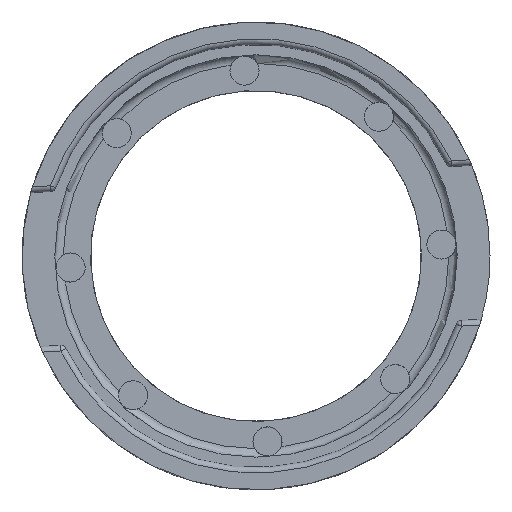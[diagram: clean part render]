
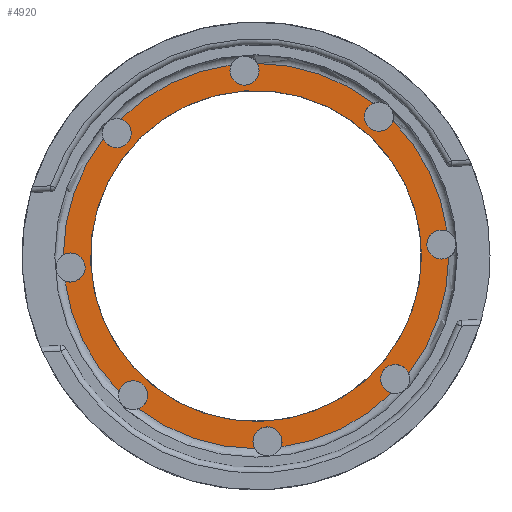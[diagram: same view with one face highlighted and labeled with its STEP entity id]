
A CAD part, top view. The second image highlights one B-rep face of the part: STEP entity #4920.
In plain terms, the highlighted planar face has unit normal (0, 0, 1).
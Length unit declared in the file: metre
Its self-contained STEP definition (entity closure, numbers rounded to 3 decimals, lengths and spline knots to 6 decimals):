
#673=CIRCLE('',#5317,0.03375);
#674=CIRCLE('',#5318,0.00255);
#675=CIRCLE('',#5319,0.03375);
#676=CIRCLE('',#5320,0.00255);
#677=CIRCLE('',#5321,0.03375);
#678=CIRCLE('',#5322,0.00255);
#679=CIRCLE('',#5323,0.03375);
#680=CIRCLE('',#5324,0.00255);
#681=CIRCLE('',#5325,0.03375);
#682=CIRCLE('',#5326,0.00255);
#683=CIRCLE('',#5327,0.03375);
#684=CIRCLE('',#5328,0.00255);
#685=CIRCLE('',#5329,0.03375);
#686=CIRCLE('',#5330,0.00255);
#687=CIRCLE('',#5331,0.03375);
#688=CIRCLE('',#5332,0.00255);
#689=CIRCLE('',#5333,0.029);
#1546=ORIENTED_EDGE('',*,*,#2866,.T.);
#1547=ORIENTED_EDGE('',*,*,#2867,.T.);
#1548=ORIENTED_EDGE('',*,*,#2868,.T.);
#1549=ORIENTED_EDGE('',*,*,#2869,.T.);
#1550=ORIENTED_EDGE('',*,*,#2870,.T.);
#1551=ORIENTED_EDGE('',*,*,#2871,.T.);
#1552=ORIENTED_EDGE('',*,*,#2872,.T.);
#1553=ORIENTED_EDGE('',*,*,#2873,.T.);
#1554=ORIENTED_EDGE('',*,*,#2874,.T.);
#1555=ORIENTED_EDGE('',*,*,#2875,.T.);
#1556=ORIENTED_EDGE('',*,*,#2876,.T.);
#1557=ORIENTED_EDGE('',*,*,#2877,.T.);
#1558=ORIENTED_EDGE('',*,*,#2878,.T.);
#1559=ORIENTED_EDGE('',*,*,#2879,.T.);
#1560=ORIENTED_EDGE('',*,*,#2880,.T.);
#1561=ORIENTED_EDGE('',*,*,#2881,.T.);
#1562=ORIENTED_EDGE('',*,*,#2882,.T.);
#2866=EDGE_CURVE('',#3445,#3446,#673,.F.);
#2867=EDGE_CURVE('',#3446,#3447,#674,.T.);
#2868=EDGE_CURVE('',#3447,#3448,#675,.F.);
#2869=EDGE_CURVE('',#3448,#3449,#676,.T.);
#2870=EDGE_CURVE('',#3449,#3450,#677,.F.);
#2871=EDGE_CURVE('',#3450,#3451,#678,.T.);
#2872=EDGE_CURVE('',#3451,#3452,#679,.F.);
#2873=EDGE_CURVE('',#3452,#3453,#680,.T.);
#2874=EDGE_CURVE('',#3453,#3454,#681,.F.);
#2875=EDGE_CURVE('',#3454,#3455,#682,.T.);
#2876=EDGE_CURVE('',#3455,#3456,#683,.F.);
#2877=EDGE_CURVE('',#3456,#3457,#684,.T.);
#2878=EDGE_CURVE('',#3457,#3458,#685,.F.);
#2879=EDGE_CURVE('',#3458,#3459,#686,.T.);
#2880=EDGE_CURVE('',#3459,#3460,#687,.F.);
#2881=EDGE_CURVE('',#3460,#3445,#688,.T.);
#2882=EDGE_CURVE('',#3461,#3461,#689,.T.);
#3445=VERTEX_POINT('',#12047);
#3446=VERTEX_POINT('',#12048);
#3447=VERTEX_POINT('',#12050);
#3448=VERTEX_POINT('',#12052);
#3449=VERTEX_POINT('',#12054);
#3450=VERTEX_POINT('',#12056);
#3451=VERTEX_POINT('',#12058);
#3452=VERTEX_POINT('',#12060);
#3453=VERTEX_POINT('',#12062);
#3454=VERTEX_POINT('',#12064);
#3455=VERTEX_POINT('',#12066);
#3456=VERTEX_POINT('',#12068);
#3457=VERTEX_POINT('',#12070);
#3458=VERTEX_POINT('',#12072);
#3459=VERTEX_POINT('',#12074);
#3460=VERTEX_POINT('',#12076);
#3461=VERTEX_POINT('',#12079);
#4104=EDGE_LOOP('',(#1546,#1547,#1548,#1549,#1550,#1551,#1552,#1553,#1554,
#1555,#1556,#1557,#1558,#1559,#1560,#1561));
#4105=EDGE_LOOP('',(#1562));
#4445=FACE_BOUND('',#4104,.T.);
#4446=FACE_BOUND('',#4105,.T.);
#4675=PLANE('',#5316);
#4920=ADVANCED_FACE('',(#4445,#4446),#4675,.F.);
#5316=AXIS2_PLACEMENT_3D('',#12045,#5942,#5943);
#5317=AXIS2_PLACEMENT_3D('',#12046,#5944,#5945);
#5318=AXIS2_PLACEMENT_3D('',#12049,#5946,#5947);
#5319=AXIS2_PLACEMENT_3D('',#12051,#5948,#5949);
#5320=AXIS2_PLACEMENT_3D('',#12053,#5950,#5951);
#5321=AXIS2_PLACEMENT_3D('',#12055,#5952,#5953);
#5322=AXIS2_PLACEMENT_3D('',#12057,#5954,#5955);
#5323=AXIS2_PLACEMENT_3D('',#12059,#5956,#5957);
#5324=AXIS2_PLACEMENT_3D('',#12061,#5958,#5959);
#5325=AXIS2_PLACEMENT_3D('',#12063,#5960,#5961);
#5326=AXIS2_PLACEMENT_3D('',#12065,#5962,#5963);
#5327=AXIS2_PLACEMENT_3D('',#12067,#5964,#5965);
#5328=AXIS2_PLACEMENT_3D('',#12069,#5966,#5967);
#5329=AXIS2_PLACEMENT_3D('',#12071,#5968,#5969);
#5330=AXIS2_PLACEMENT_3D('',#12073,#5970,#5971);
#5331=AXIS2_PLACEMENT_3D('',#12075,#5972,#5973);
#5332=AXIS2_PLACEMENT_3D('',#12077,#5974,#5975);
#5333=AXIS2_PLACEMENT_3D('',#12078,#5976,#5977);
#5942=DIRECTION('',(0.,0.,-1.));
#5943=DIRECTION('',(0.819,0.574,0.));
#5944=DIRECTION('',(0.,0.,-1.));
#5945=DIRECTION('',(1.,0.,0.));
#5946=DIRECTION('',(0.,0.,-1.));
#5947=DIRECTION('',(1.,0.,0.));
#5948=DIRECTION('',(0.,0.,-1.));
#5949=DIRECTION('',(1.,0.,0.));
#5950=DIRECTION('',(0.,0.,-1.));
#5951=DIRECTION('',(1.,0.,0.));
#5952=DIRECTION('',(0.,0.,-1.));
#5953=DIRECTION('',(1.,0.,0.));
#5954=DIRECTION('',(0.,0.,-1.));
#5955=DIRECTION('',(1.,0.,0.));
#5956=DIRECTION('',(0.,0.,-1.));
#5957=DIRECTION('',(1.,0.,0.));
#5958=DIRECTION('',(0.,0.,-1.));
#5959=DIRECTION('',(1.,0.,0.));
#5960=DIRECTION('',(0.,0.,-1.));
#5961=DIRECTION('',(1.,0.,0.));
#5962=DIRECTION('',(0.,0.,-1.));
#5963=DIRECTION('',(1.,0.,0.));
#5964=DIRECTION('',(0.,0.,-1.));
#5965=DIRECTION('',(1.,0.,0.));
#5966=DIRECTION('',(0.,0.,-1.));
#5967=DIRECTION('',(1.,0.,0.));
#5968=DIRECTION('',(0.,0.,-1.));
#5969=DIRECTION('',(1.,0.,0.));
#5970=DIRECTION('',(0.,0.,-1.));
#5971=DIRECTION('',(1.,0.,0.));
#5972=DIRECTION('',(0.,0.,-1.));
#5973=DIRECTION('',(1.,0.,0.));
#5974=DIRECTION('',(0.,0.,-1.));
#5975=DIRECTION('',(1.,0.,0.));
#5976=DIRECTION('',(0.,0.,-1.));
#5977=DIRECTION('',(1.,0.,0.));
#12045=CARTESIAN_POINT('',(0.,0.,0.0758));
#12046=CARTESIAN_POINT('',(0.,0.,0.0758));
#12047=CARTESIAN_POINT('',(-0.026754,0.020575,0.0758));
#12048=CARTESIAN_POINT('',(-0.033749,0.000202,0.0758));
#12049=CARTESIAN_POINT('',(-0.032488,-0.002014,0.0758));
#12050=CARTESIAN_POINT('',(-0.033466,-0.004369,0.0758));
#12051=CARTESIAN_POINT('',(0.,0.,0.0758));
#12052=CARTESIAN_POINT('',(-0.024007,-0.023722,0.0758));
#12053=CARTESIAN_POINT('',(-0.021548,-0.024397,0.0758));
#12054=CARTESIAN_POINT('',(-0.020575,-0.026754,0.0758));
#12055=CARTESIAN_POINT('',(0.,0.,0.0758));
#12056=CARTESIAN_POINT('',(-0.000202,-0.033749,0.0758));
#12057=CARTESIAN_POINT('',(0.002014,-0.032488,0.0758));
#12058=CARTESIAN_POINT('',(0.004369,-0.033466,0.0758));
#12059=CARTESIAN_POINT('',(0.,0.,0.0758));
#12060=CARTESIAN_POINT('',(0.023722,-0.024007,0.0758));
#12061=CARTESIAN_POINT('',(0.024397,-0.021548,0.0758));
#12062=CARTESIAN_POINT('',(0.026754,-0.020575,0.0758));
#12063=CARTESIAN_POINT('',(0.,0.,0.0758));
#12064=CARTESIAN_POINT('',(0.033749,-0.000202,0.0758));
#12065=CARTESIAN_POINT('',(0.032488,0.002014,0.0758));
#12066=CARTESIAN_POINT('',(0.033466,0.004369,0.0758));
#12067=CARTESIAN_POINT('',(0.,0.,0.0758));
#12068=CARTESIAN_POINT('',(0.024007,0.023722,0.0758));
#12069=CARTESIAN_POINT('',(0.021548,0.024397,0.0758));
#12070=CARTESIAN_POINT('',(0.020575,0.026754,0.0758));
#12071=CARTESIAN_POINT('',(0.,0.,0.0758));
#12072=CARTESIAN_POINT('',(0.000202,0.033749,0.0758));
#12073=CARTESIAN_POINT('',(-0.002014,0.032488,0.0758));
#12074=CARTESIAN_POINT('',(-0.004369,0.033466,0.0758));
#12075=CARTESIAN_POINT('',(0.,0.,0.0758));
#12076=CARTESIAN_POINT('',(-0.023722,0.024007,0.0758));
#12077=CARTESIAN_POINT('',(-0.024397,0.021548,0.0758));
#12078=CARTESIAN_POINT('',(0.,0.,0.0758));
#12079=CARTESIAN_POINT('',(0.029,0.,0.0758));
